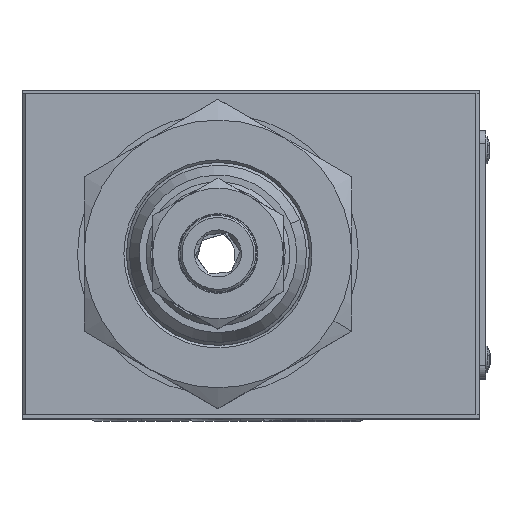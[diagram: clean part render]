
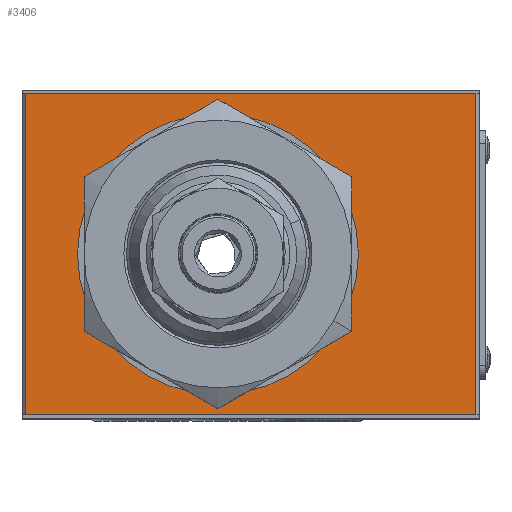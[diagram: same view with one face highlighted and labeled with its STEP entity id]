
A CAD part, top view. The second image highlights one B-rep face of the part: STEP entity #3406.
In plain terms, the highlighted planar face has unit normal (0, 0, 1).
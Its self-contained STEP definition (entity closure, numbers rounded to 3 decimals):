
#315 = EDGE_CURVE ( 'NONE', #8248, #38781, #41976, .T. ) ;
#656 = EDGE_CURVE ( 'NONE', #10863, #8248, #31642, .T. ) ;
#3213 = AXIS2_PLACEMENT_3D ( 'NONE', #45335, #49743, #6195 ) ;
#3406 = ADVANCED_FACE ( 'NONE', ( #19898, #53315 ), #31124, .F. ) ;
#4186 = LINE ( 'NONE', #13478, #29482 ) ;
#5339 = DIRECTION ( 'NONE',  ( 0., 0., -1. ) ) ;
#6195 = DIRECTION ( 'NONE',  ( -1., 0., 0. ) ) ;
#7074 = VECTOR ( 'NONE', #25300, 1000. ) ;
#7375 = CARTESIAN_POINT ( 'NONE',  ( 34.5, -24.6, 67.5 ) ) ;
#8248 = VERTEX_POINT ( 'NONE', #7375 ) ;
#8685 = CARTESIAN_POINT ( 'NONE',  ( -34.5, -24.6, 67.5 ) ) ;
#9217 = LINE ( 'NONE', #9981, #15352 ) ;
#9981 = CARTESIAN_POINT ( 'NONE',  ( -34.5, -25.1, 67.5 ) ) ;
#10191 = ORIENTED_EDGE ( 'NONE', *, *, #52963, .T. ) ;
#10863 = VERTEX_POINT ( 'NONE', #8685 ) ;
#10928 = EDGE_CURVE ( 'NONE', #23535, #29544, #12658, .T. ) ;
#11042 = ORIENTED_EDGE ( 'NONE', *, *, #315, .T. ) ;
#12658 = CIRCLE ( 'NONE', #3213, 21.5 ) ;
#13478 = CARTESIAN_POINT ( 'NONE',  ( 35., 24.6, 67.5 ) ) ;
#15008 = CARTESIAN_POINT ( 'NONE',  ( 16.5, 0., 67.5 ) ) ;
#15352 = VECTOR ( 'NONE', #53314, 1000. ) ;
#15984 = VECTOR ( 'NONE', #44812, 1000. ) ;
#17975 = DIRECTION ( 'NONE',  ( -1., 0., 0. ) ) ;
#18154 = CARTESIAN_POINT ( 'NONE',  ( 35., -25.1, 67.5 ) ) ;
#19898 = FACE_BOUND ( 'NONE', #52315, .T. ) ;
#22038 = CARTESIAN_POINT ( 'NONE',  ( -34.5, 24.6, 67.5 ) ) ;
#22913 = EDGE_CURVE ( 'NONE', #29544, #23535, #51972, .T. ) ;
#23138 = AXIS2_PLACEMENT_3D ( 'NONE', #31516, #27156, #31694 ) ;
#23535 = VERTEX_POINT ( 'NONE', #15008 ) ;
#24490 = AXIS2_PLACEMENT_3D ( 'NONE', #18154, #5339, #17975 ) ;
#24632 = EDGE_LOOP ( 'NONE', ( #28804, #11042, #32725, #10191 ) ) ;
#24928 = CARTESIAN_POINT ( 'NONE',  ( -35., -24.6, 67.5 ) ) ;
#25300 = DIRECTION ( 'NONE',  ( 1., 0., 0. ) ) ;
#27156 = DIRECTION ( 'NONE',  ( 0., 0., -1. ) ) ;
#28804 = ORIENTED_EDGE ( 'NONE', *, *, #656, .T. ) ;
#29482 = VECTOR ( 'NONE', #52639, 1000. ) ;
#29544 = VERTEX_POINT ( 'NONE', #49054 ) ;
#31124 = PLANE ( 'NONE',  #24490 ) ;
#31516 = CARTESIAN_POINT ( 'NONE',  ( -5., 0., 67.5 ) ) ;
#31642 = LINE ( 'NONE', #24928, #7074 ) ;
#31694 = DIRECTION ( 'NONE',  ( -1., 0., 0. ) ) ;
#31785 = CARTESIAN_POINT ( 'NONE',  ( 34.5, 24.6, 67.5 ) ) ;
#32073 = EDGE_CURVE ( 'NONE', #38781, #33244, #4186, .T. ) ;
#32725 = ORIENTED_EDGE ( 'NONE', *, *, #32073, .T. ) ;
#33244 = VERTEX_POINT ( 'NONE', #22038 ) ;
#38781 = VERTEX_POINT ( 'NONE', #31785 ) ;
#40460 = ORIENTED_EDGE ( 'NONE', *, *, #22913, .T. ) ;
#41976 = LINE ( 'NONE', #45204, #15984 ) ;
#44812 = DIRECTION ( 'NONE',  ( 0., 1., 0. ) ) ;
#45204 = CARTESIAN_POINT ( 'NONE',  ( 34.5, -25.1, 67.5 ) ) ;
#45335 = CARTESIAN_POINT ( 'NONE',  ( -5., 0., 67.5 ) ) ;
#49054 = CARTESIAN_POINT ( 'NONE',  ( -26.5, 0., 67.5 ) ) ;
#49743 = DIRECTION ( 'NONE',  ( 0., 0., -1. ) ) ;
#51972 = CIRCLE ( 'NONE', #23138, 21.5 ) ;
#52315 = EDGE_LOOP ( 'NONE', ( #40460, #52362 ) ) ;
#52362 = ORIENTED_EDGE ( 'NONE', *, *, #10928, .T. ) ;
#52639 = DIRECTION ( 'NONE',  ( -1., 0., 0. ) ) ;
#52963 = EDGE_CURVE ( 'NONE', #33244, #10863, #9217, .T. ) ;
#53314 = DIRECTION ( 'NONE',  ( 0., -1., 0. ) ) ;
#53315 = FACE_OUTER_BOUND ( 'NONE', #24632, .T. ) ;
